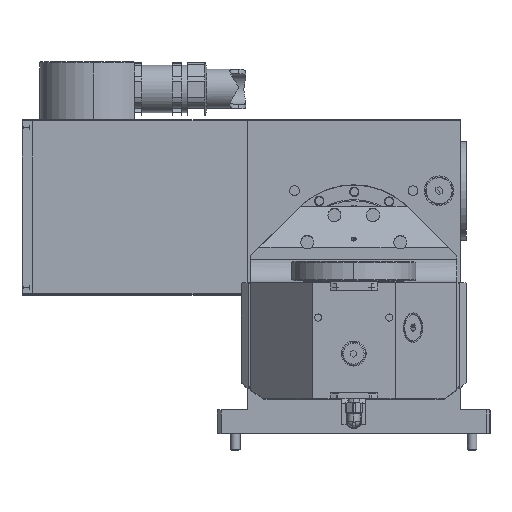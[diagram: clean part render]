
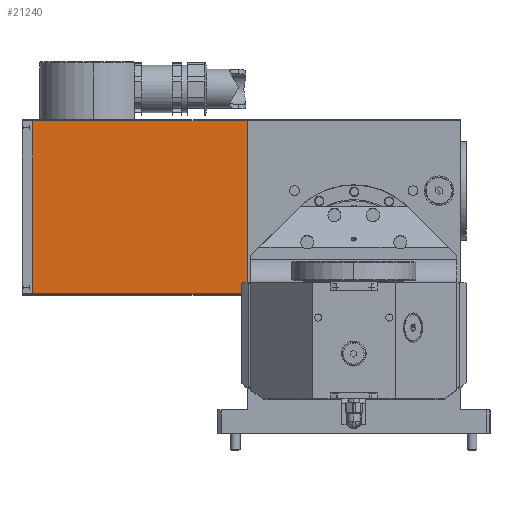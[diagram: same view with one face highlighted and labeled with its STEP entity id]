
A CAD part, top view. The second image highlights one B-rep face of the part: STEP entity #21240.
In plain terms, the highlighted planar face has unit normal (0, 0, 1).
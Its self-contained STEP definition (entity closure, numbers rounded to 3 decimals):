
#2665 = EDGE_CURVE ( 'NONE', #56795, #33494, #39304, .T. ) ;
#3133 = DIRECTION ( 'NONE',  ( 0., 1., 0. ) ) ;
#3170 = VECTOR ( 'NONE', #34702, 1000. ) ;
#3558 = EDGE_CURVE ( 'NONE', #45354, #33494, #35762, .T. ) ;
#3833 = EDGE_LOOP ( 'NONE', ( #25409, #59705, #15186, #6174 ) ) ;
#6174 = ORIENTED_EDGE ( 'NONE', *, *, #32352, .T. ) ;
#8932 = DIRECTION ( 'NONE',  ( 1., 0., 0. ) ) ;
#13362 = CARTESIAN_POINT ( 'NONE',  ( 0., 47., -19. ) ) ;
#13661 = LINE ( 'NONE', #13362, #41044 ) ;
#15186 = ORIENTED_EDGE ( 'NONE', *, *, #3558, .F. ) ;
#17062 = CARTESIAN_POINT ( 'NONE',  ( -181., 48., -19. ) ) ;
#17480 = CARTESIAN_POINT ( 'NONE',  ( -181., 194., -19. ) ) ;
#18872 = PLANE ( 'NONE',  #31240 ) ;
#21240 = ADVANCED_FACE ( 'NONE', ( #29027 ), #18872, .F. ) ;
#24080 = DIRECTION ( 'NONE',  ( 0., 0., -1. ) ) ;
#25409 = ORIENTED_EDGE ( 'NONE', *, *, #41492, .T. ) ;
#25448 = CARTESIAN_POINT ( 'NONE',  ( -181., 194., -19. ) ) ;
#26510 = CARTESIAN_POINT ( 'NONE',  ( -181., 47., -19. ) ) ;
#29027 = FACE_OUTER_BOUND ( 'NONE', #3833, .T. ) ;
#31240 = AXIS2_PLACEMENT_3D ( 'NONE', #51533, #24080, #47813 ) ;
#32352 = EDGE_CURVE ( 'NONE', #45354, #55060, #60906, .T. ) ;
#32576 = VECTOR ( 'NONE', #8932, 1000. ) ;
#33494 = VERTEX_POINT ( 'NONE', #17480 ) ;
#34702 = DIRECTION ( 'NONE',  ( -1., 0., 0. ) ) ;
#35762 = LINE ( 'NONE', #26510, #39598 ) ;
#36143 = DIRECTION ( 'NONE',  ( 0., 1., 0. ) ) ;
#36316 = CARTESIAN_POINT ( 'NONE',  ( 0., 48., -19. ) ) ;
#39304 = LINE ( 'NONE', #25448, #3170 ) ;
#39598 = VECTOR ( 'NONE', #3133, 1000. ) ;
#41044 = VECTOR ( 'NONE', #36143, 1000. ) ;
#41492 = EDGE_CURVE ( 'NONE', #55060, #56795, #13661, .T. ) ;
#45354 = VERTEX_POINT ( 'NONE', #17062 ) ;
#47813 = DIRECTION ( 'NONE',  ( -1., 0., 0. ) ) ;
#51408 = CARTESIAN_POINT ( 'NONE',  ( -181., 48., -19. ) ) ;
#51533 = CARTESIAN_POINT ( 'NONE',  ( -181., 47., -19. ) ) ;
#55060 = VERTEX_POINT ( 'NONE', #36316 ) ;
#55798 = CARTESIAN_POINT ( 'NONE',  ( 0., 194., -19. ) ) ;
#56795 = VERTEX_POINT ( 'NONE', #55798 ) ;
#59705 = ORIENTED_EDGE ( 'NONE', *, *, #2665, .T. ) ;
#60906 = LINE ( 'NONE', #51408, #32576 ) ;
